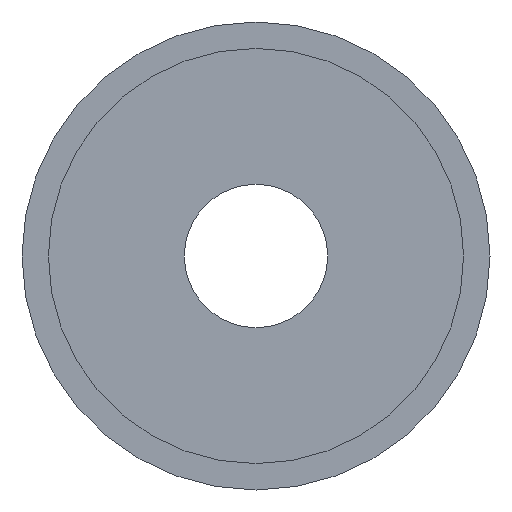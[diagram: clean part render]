
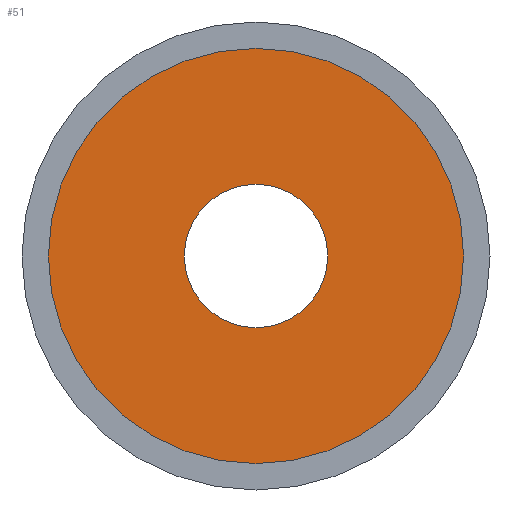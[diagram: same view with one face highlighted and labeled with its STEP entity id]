
A CAD part, front view. The second image highlights one B-rep face of the part: STEP entity #51.
In plain terms, the highlighted planar face has unit normal (0, -1, 0).
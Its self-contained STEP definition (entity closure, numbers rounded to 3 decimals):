
#13 = CARTESIAN_POINT ( 'NONE',  ( 0., -15., 9.5 ) ) ;
#42 = EDGE_LOOP ( 'NONE', ( #1022, #1327 ) ) ;
#51 = ADVANCED_FACE ( 'NONE', ( #986, #393 ), #1261, .F. ) ;
#176 = CARTESIAN_POINT ( 'NONE',  ( 0., -15., 0. ) ) ;
#261 = CARTESIAN_POINT ( 'NONE',  ( 0., -15., 0. ) ) ;
#264 = CARTESIAN_POINT ( 'NONE',  ( 0., -15., 0. ) ) ;
#393 = FACE_OUTER_BOUND ( 'NONE', #42, .T. ) ;
#428 = DIRECTION ( 'NONE',  ( 0., -1., 0. ) ) ;
#508 = CIRCLE ( 'NONE', #673, 27.5 ) ;
#510 = AXIS2_PLACEMENT_3D ( 'NONE', #1531, #609, #1380 ) ;
#546 = CARTESIAN_POINT ( 'NONE',  ( 0., -15., 27.5 ) ) ;
#609 = DIRECTION ( 'NONE',  ( 0., -1., 0. ) ) ;
#650 = VERTEX_POINT ( 'NONE', #1581 ) ;
#673 = AXIS2_PLACEMENT_3D ( 'NONE', #261, #1378, #1658 ) ;
#698 = AXIS2_PLACEMENT_3D ( 'NONE', #176, #1434, #979 ) ;
#706 = CIRCLE ( 'NONE', #1966, 9.5 ) ;
#712 = DIRECTION ( 'NONE',  ( 0., 0., -1. ) ) ;
#728 = CIRCLE ( 'NONE', #510, 9.5 ) ;
#790 = VERTEX_POINT ( 'NONE', #969 ) ;
#843 = VERTEX_POINT ( 'NONE', #546 ) ;
#955 = DIRECTION ( 'NONE',  ( 0., 1., 0. ) ) ;
#969 = CARTESIAN_POINT ( 'NONE',  ( 0., -15., -27.5 ) ) ;
#979 = DIRECTION ( 'NONE',  ( 0., 0., -1. ) ) ;
#985 = EDGE_CURVE ( 'NONE', #1178, #650, #706, .T. ) ;
#986 = FACE_BOUND ( 'NONE', #2007, .T. ) ;
#1003 = EDGE_CURVE ( 'NONE', #650, #1178, #728, .T. ) ;
#1022 = ORIENTED_EDGE ( 'NONE', *, *, #1806, .T. ) ;
#1047 = CIRCLE ( 'NONE', #698, 27.5 ) ;
#1087 = AXIS2_PLACEMENT_3D ( 'NONE', #1412, #955, #1722 ) ;
#1178 = VERTEX_POINT ( 'NONE', #13 ) ;
#1261 = PLANE ( 'NONE',  #1087 ) ;
#1327 = ORIENTED_EDGE ( 'NONE', *, *, #1566, .T. ) ;
#1378 = DIRECTION ( 'NONE',  ( 0., -1., 0. ) ) ;
#1380 = DIRECTION ( 'NONE',  ( 0., 0., -1. ) ) ;
#1412 = CARTESIAN_POINT ( 'NONE',  ( 0., -15., 9.5 ) ) ;
#1434 = DIRECTION ( 'NONE',  ( 0., -1., 0. ) ) ;
#1531 = CARTESIAN_POINT ( 'NONE',  ( 0., -15., 0. ) ) ;
#1566 = EDGE_CURVE ( 'NONE', #843, #790, #508, .T. ) ;
#1581 = CARTESIAN_POINT ( 'NONE',  ( 0., -15., -9.5 ) ) ;
#1658 = DIRECTION ( 'NONE',  ( 0., 0., -1. ) ) ;
#1704 = ORIENTED_EDGE ( 'NONE', *, *, #1003, .F. ) ;
#1722 = DIRECTION ( 'NONE',  ( 0., 0., 1. ) ) ;
#1806 = EDGE_CURVE ( 'NONE', #790, #843, #1047, .T. ) ;
#1826 = ORIENTED_EDGE ( 'NONE', *, *, #985, .F. ) ;
#1966 = AXIS2_PLACEMENT_3D ( 'NONE', #264, #428, #712 ) ;
#2007 = EDGE_LOOP ( 'NONE', ( #1704, #1826 ) ) ;
